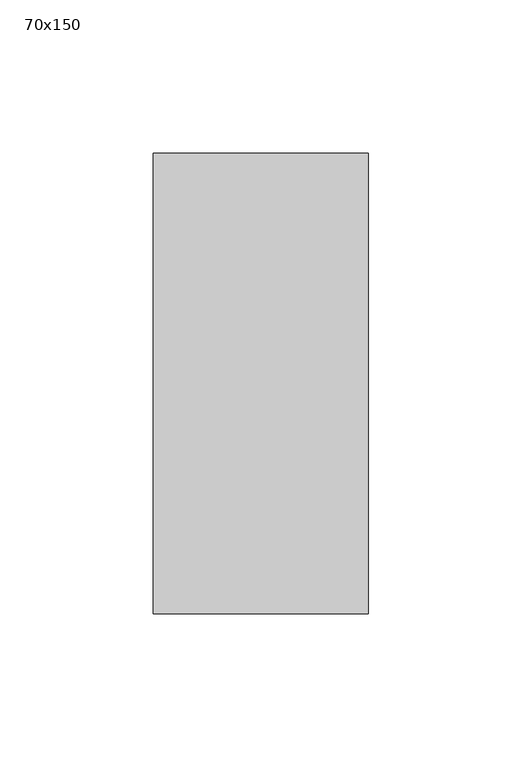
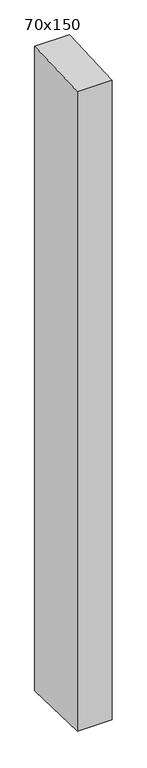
"""IFC4 building model written with IfcOpenShell, lengths in millimetres: member geometry, 長方形のマリオン : 70x150."""

from ifc_helpers import new_model, si_unit, frame, origin, place, context, project, spatial, polyline, outline, extrude, source, transform, mapped, element, save


def member_70x150_12938b65(model_context):
    return source(origin(), model_context, "Body", "SweptSolid", [
        extrude(outline(polyline([(-75.0, -3.0352512), (75.0, 3.0352512), (75.0, -1374.7031681), (-75.0, -1370.9848117), (-75.0, -3.0352512)])), frame((-70.0, 0.0, 0.0), z_axis=(1.0, 0.0, 0.0), x_axis=(0.0, 1.0, 0.0)), (0.0, 0.0, 1.0), 70.0),
    ])


if __name__ == "__main__":
    model = new_model("IFC4")
    model_context = context("Model", 3, world=origin())
    ifc_project = project(units=[si_unit("LENGTHUNIT", "METRE", prefix="MILLI")], contexts=[model_context])
    site = spatial("IfcSite", under=ifc_project)
    building = spatial("IfcBuilding", under=site)
    placement = place(None, origin())
    member_70x150_shape = member_70x150_12938b65(model_context)
    element("IfcMember", 1, ObjectType="長方形のマリオン : 70x150", at=placement, inside=building, context=model_context, shape_type="MappedRepresentation", body=[
        mapped(member_70x150_shape, transform((0.0, 0.0, 0.0), x_axis=(1.0, 0.0, 0.0), y_axis=(0.0, 1.0, 0.0), z_axis=(0.0, 0.0, 1.0))),
    ])
    save(model, "model.ifc")
